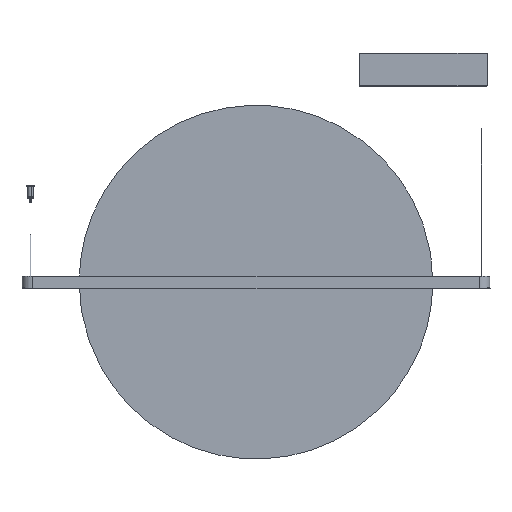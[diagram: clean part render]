
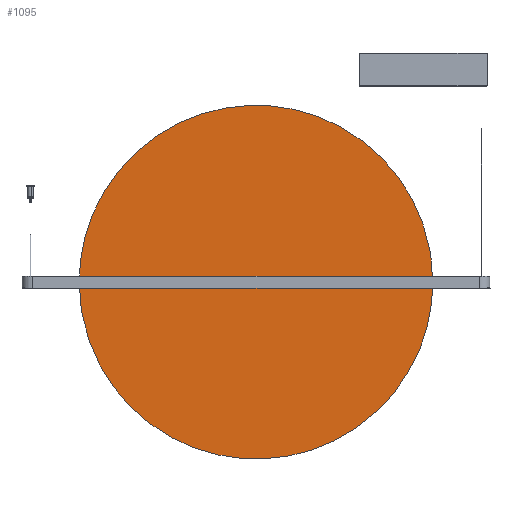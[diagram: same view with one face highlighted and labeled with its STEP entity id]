
A CAD part, front view. The second image highlights one B-rep face of the part: STEP entity #1095.
In plain terms, the highlighted planar face has unit normal (0, -1, 0).
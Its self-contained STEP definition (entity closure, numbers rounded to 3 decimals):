
#1095=ADVANCED_FACE('',(#1610),#8500,.T.);
#1610=FACE_OUTER_BOUND('',#2125,.T.);
#2125=EDGE_LOOP('',(#2656,#2657));
#2656=ORIENTED_EDGE('',*,*,#5544,.T.);
#2657=ORIENTED_EDGE('',*,*,#5547,.T.);
#5544=EDGE_CURVE('',#7525,#7527,#7006,.T.);
#5547=EDGE_CURVE('',#7527,#7525,#7009,.T.);
#7006=(
BOUNDED_CURVE()
B_SPLINE_CURVE(2,(#10839,#10840,#10841,#10842,#10843),.UNSPECIFIED.,.F.,
 .F.)
B_SPLINE_CURVE_WITH_KNOTS((3,2,3),(0.,628.319,1256.637),
 .UNSPECIFIED.)
CURVE()
GEOMETRIC_REPRESENTATION_ITEM()
RATIONAL_B_SPLINE_CURVE((1.,0.707,1.,0.707,1.))
REPRESENTATION_ITEM('')
);
#7009=(
BOUNDED_CURVE()
B_SPLINE_CURVE(2,(#10851,#10852,#10853,#10854,#10855),.UNSPECIFIED.,.F.,
 .F.)
B_SPLINE_CURVE_WITH_KNOTS((3,2,3),(1256.637,1884.956,2513.274),
 .UNSPECIFIED.)
CURVE()
GEOMETRIC_REPRESENTATION_ITEM()
RATIONAL_B_SPLINE_CURVE((1.,0.707,1.,0.707,1.))
REPRESENTATION_ITEM('')
);
#7525=VERTEX_POINT('',#10829);
#7527=VERTEX_POINT('',#10831);
#8500=PLANE('',#9778);
#9778=AXIS2_PLACEMENT_3D('',#10826,#10289,$);
#10289=DIRECTION('',(0.,-1.,0.));
#10826=CARTESIAN_POINT('',(-408.,-5.454,-408.011));
#10829=CARTESIAN_POINT('',(400.,-5.454,-0.011));
#10831=CARTESIAN_POINT('',(-400.,-5.454,-0.011));
#10839=CARTESIAN_POINT('',(400.,-5.454,-0.011));
#10840=CARTESIAN_POINT('',(400.,-5.454,399.989));
#10841=CARTESIAN_POINT('',(0.,-5.454,399.989));
#10842=CARTESIAN_POINT('',(-400.,-5.454,399.989));
#10843=CARTESIAN_POINT('',(-400.,-5.454,-0.011));
#10851=CARTESIAN_POINT('',(-400.,-5.454,-0.011));
#10852=CARTESIAN_POINT('',(-400.,-5.454,-400.011));
#10853=CARTESIAN_POINT('',(0.,-5.454,-400.011));
#10854=CARTESIAN_POINT('',(400.,-5.454,-400.011));
#10855=CARTESIAN_POINT('',(400.,-5.454,-0.011));
